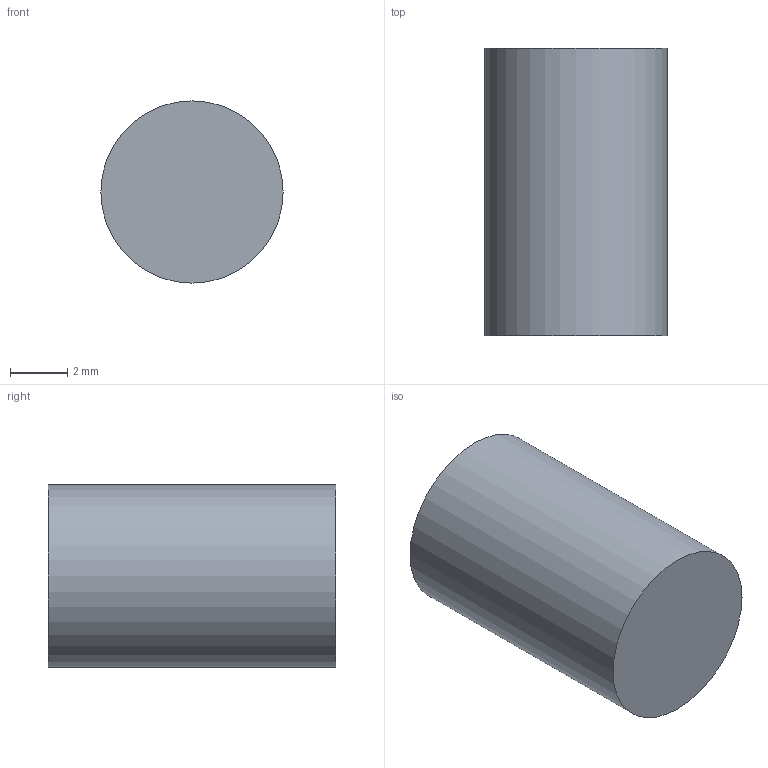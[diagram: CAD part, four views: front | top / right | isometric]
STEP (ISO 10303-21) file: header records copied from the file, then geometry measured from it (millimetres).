
FILE_DESCRIPTION(('Open CASCADE Model'),'2;1');
FILE_NAME('Open CASCADE Shape Model','2026-10-16T20:39:04',('Author'),( 'Open CASCADE'),'Open CASCADE STEP processor 7.8','Open CASCADE 7.8' ,'Unknown');
FILE_SCHEMA(('AUTOMOTIVE_DESIGN { 1 0 10303 214 1 1 1 1 }'));
Length unit declared in the file: millimetre
Products named in the file (1): Open CASCADE STEP translator 7.8 6
Bounding box: 6.35 x 10 x 6.35 mm (x, y, z)
Volume: 316.7 mm3; surface area: 262.8 mm2
Topology: 1 solids, 1 shells, 3 faces, 3 edges, 2 vertices
Faces by surface type: plane 2, cylinder 1
Full cylindrical faces by diameter (mm): 6.35 x1
Entity records: 108 total; most frequent: DIRECTION 19, CARTESIAN_POINT 15, AXIS2_PLACEMENT_3D 6, ORIENTED_EDGE 6, PCURVE 6, DEFINITIONAL_REPRESENTATION 6, LINE 5, VECTOR 5
